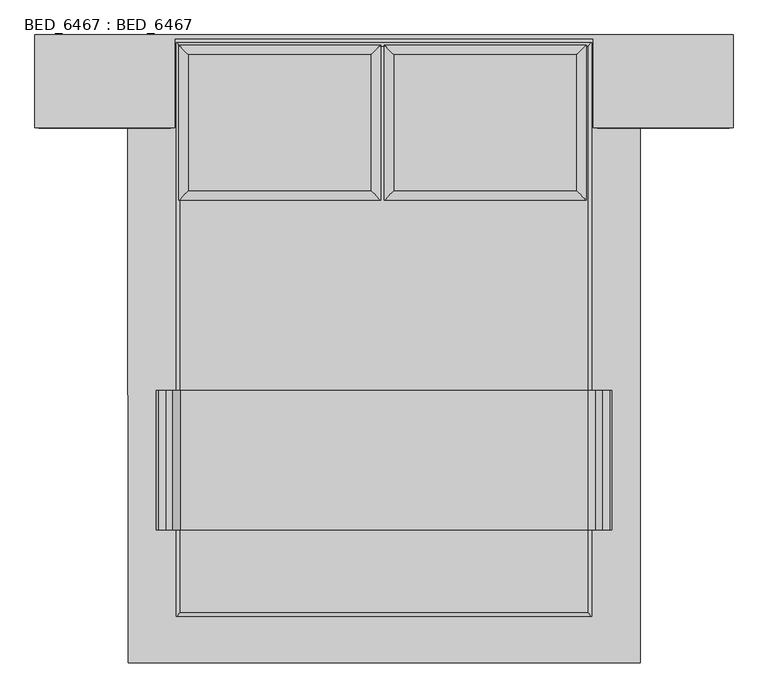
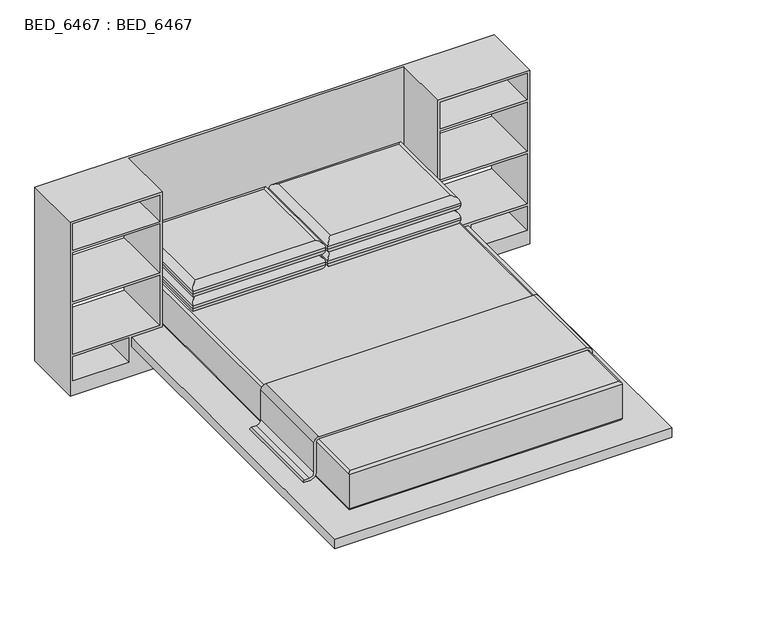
"""IFC4 building model written with IfcOpenShell, lengths in millimetres: proxy geometry, BED_6467 : BED_6467."""

from ifc_helpers import new_model, si_unit, point, frame, frame_2d, origin, place, context, project, spatial, polyline, circle_curve, ellipse_curve, trimmed, segment, composite_curve, outline, extrude, faceted_brep, source, transform, mapped, element, save
from ifc_brep_helpers import plane_surface, cylinder_surface, advanced_brep


def bed_6467_bed_6467_19fe8acc(model_context):
    return source(origin(), model_context, "Body", "SolidModel", [
        extrude(outline(composite_curve([segment(trimmed(circle_curve(frame_2d((393.7, -695.3827629)), 12.7), [point((393.7, -708.0827629))], [point((406.4, -695.3827629))], True, "CARTESIAN"), True, "CONTINUOUS"), segment(polyline([(406.4, -695.3827629), (406.4, 638.1172371)]), True, "CONTINUOUS"), segment(trimmed(circle_curve(frame_2d((393.7, 638.1172371)), 12.7), [point((406.4, 638.1172371))], [point((393.7, 650.8172371))], True, "CARTESIAN"), True, "CONTINUOUS"), segment(polyline([(393.7, 650.8172371), (238.548362, 650.8172371)]), True, "CONTINUOUS"), segment(trimmed(circle_curve(frame_2d((238.548362, 686.1655991)), 35.348362), [point((238.548362, 650.8172371))], [point((203.2, 686.1655991))], False, "CARTESIAN"), True, "CONTINUOUS"), segment(polyline([(203.2, 686.1655991), (203.2, 710.6172368)]), True, "CONTINUOUS"), segment(trimmed(circle_curve(frame_2d((209.55, 710.6172368)), 6.35), [point((203.2, 710.6172368))], [point((215.9, 710.6172368))], False, "CARTESIAN"), True, "CONTINUOUS"), segment(polyline([(215.9, 710.6172368), (215.9, 686.1655991)]), True, "CONTINUOUS"), segment(trimmed(circle_curve(frame_2d((238.548362, 686.1655991)), 22.648362), [point((215.9, 686.1655991))], [point((238.548362, 663.5172371))], True, "CARTESIAN"), True, "CONTINUOUS"), segment(polyline([(238.548362, 663.5172371), (393.7, 663.5172371)]), True, "CONTINUOUS"), segment(trimmed(circle_curve(frame_2d((393.7, 638.1172371)), 25.4), [point((393.7, 663.5172371))], [point((419.1, 638.1172371))], False, "CARTESIAN"), True, "CONTINUOUS"), segment(polyline([(419.1, 638.1172371), (419.1, -695.3827629)]), True, "CONTINUOUS"), segment(trimmed(circle_curve(frame_2d((393.7, -695.3827629)), 25.4), [point((419.1, -695.3827629))], [point((393.7, -720.7827629))], False, "CARTESIAN"), True, "CONTINUOUS"), segment(polyline([(393.7, -720.7827629), (238.548362, -720.7827629)]), True, "CONTINUOUS"), segment(trimmed(circle_curve(frame_2d((238.548362, -743.4311248)), 22.648362), [point((238.548362, -720.7827629))], [point((215.9, -743.4311248))], True, "CARTESIAN"), True, "CONTINUOUS"), segment(polyline([(215.9, -743.4311248), (215.9, -767.8827625)]), True, "CONTINUOUS"), segment(trimmed(circle_curve(frame_2d((209.55, -767.8827625)), 6.35), [point((215.9, -767.8827625))], [point((203.2, -767.8827625))], False, "CARTESIAN"), True, "CONTINUOUS"), segment(polyline([(203.2, -767.8827625), (203.2, -743.4311248)]), True, "CONTINUOUS"), segment(trimmed(circle_curve(frame_2d((238.548362, -743.4311248)), 35.348362), [point((203.2, -743.4311248))], [point((238.548362, -708.0827629))], False, "CARTESIAN"), True, "CONTINUOUS"), segment(polyline([(238.548362, -708.0827629), (393.7, -708.0827629)]), True, "CONTINUOUS")], self_intersect=False)), frame((0.0, -800.4016054, 0.0), z_axis=(0.0, 1.0, 0.0), x_axis=(0.0, 0.0, 1.0)), (0.0, 0.0, 1.0), 457.2),
        advanced_brep(
        [(4.655837, 311.8406819, 558.8), (601.555837, 311.8406819, 558.8), (601.555837, 756.3406819, 558.8), (4.655837, 756.3406819, 558.8), (601.555837, 311.8406819, 482.6), (4.655837, 311.8406819, 482.6), (4.655837, 756.3406819, 482.6), (601.555837, 756.3406819, 482.6), (633.305837, 788.0906819, 527.05), (633.305837, 788.0906819, 514.35), (-27.094163, 788.0906819, 514.35), (-27.094163, 788.0906819, 527.05), (-27.094163, 280.0906819, 514.35), (-27.094163, 280.0906819, 527.05), (633.305837, 280.0906819, 514.35), (633.305837, 280.0906819, 527.05)],
        [
            (0, 1),
            (1, 2),
            (2, 3),
            (3, 0),
            (4, 5),
            (5, 6),
            (6, 7),
            (7, 4),
            (8, 9),
            (9, 10),
            (10, 11),
            (11, 8),
            (10, 12),
            (12, 13),
            (13, 11),
            (12, 14),
            (14, 15),
            (15, 13),
            (8, 15),
            (14, 9),
            (15, 1, ellipse_curve(frame((601.555837, 311.8406819, 527.05), z_axis=(-0.7071067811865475, -0.7071067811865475, 0.0), x_axis=(0.7071067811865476, -0.7071067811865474, 0.0)), 44.9012806, 31.75)),
            (0, 13, ellipse_curve(frame((4.655837, 311.8406819, 527.05), z_axis=(0.7071067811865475, -0.7071067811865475, 0.0), x_axis=(0.7071067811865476, 0.7071067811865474, 0.0)), 44.9012806, 31.75)),
            (4, 14, ellipse_curve(frame((601.555837, 311.8406819, 514.35), z_axis=(-0.7071067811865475, -0.7071067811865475, 0.0), x_axis=(0.7071067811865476, -0.7071067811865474, 0.0)), 44.9012806, 31.75)),
            (12, 5, ellipse_curve(frame((4.655837, 311.8406819, 514.35), z_axis=(0.7071067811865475, -0.7071067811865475, 0.0), x_axis=(0.7071067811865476, 0.7071067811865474, 0.0)), 44.9012806, 31.75)),
            (8, 2, ellipse_curve(frame((601.555837, 756.3406819, 527.05), z_axis=(0.7071067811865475, -0.7071067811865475, 0.0), x_axis=(0.7071067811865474, 0.7071067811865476, 0.0)), 44.9012806, 31.75)),
            (7, 9, ellipse_curve(frame((601.555837, 756.3406819, 514.35), z_axis=(0.7071067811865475, -0.7071067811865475, 0.0), x_axis=(0.7071067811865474, 0.7071067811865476, 0.0)), 44.9012806, 31.75)),
            (11, 3, ellipse_curve(frame((4.655837, 756.3406819, 527.05), z_axis=(0.7071067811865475, 0.7071067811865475, 0.0), x_axis=(-0.7071067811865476, 0.7071067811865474, 0.0)), 44.9012806, 31.75)),
            (6, 10, ellipse_curve(frame((4.655837, 756.3406819, 514.35), z_axis=(0.7071067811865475, 0.7071067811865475, 0.0), x_axis=(-0.7071067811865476, 0.7071067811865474, 0.0)), 44.9012806, 31.75)),
        ],
        [
            plane_surface(frame((-27.094163, 788.0906819, 558.8), z_axis=(0.0, 0.0, 1.0), x_axis=(-1.0, 0.0, 0.0))),
            plane_surface(frame((-27.094163, 788.0906819, 482.6), z_axis=(0.0, 0.0, -1.0), x_axis=(1.0, 0.0, 0.0))),
            plane_surface(frame((633.305837, 788.0906819, 558.8), z_axis=(0.0, 1.0, 0.0), x_axis=(0.0, 0.0, -1.0))),
            plane_surface(frame((-27.094163, 788.0906819, 558.8), z_axis=(-1.0, 0.0, 0.0), x_axis=(0.0, 0.0, -1.0))),
            plane_surface(frame((-27.094163, 280.0906819, 558.8), z_axis=(0.0, -1.0, 0.0), x_axis=(0.0, 0.0, -1.0))),
            plane_surface(frame((633.305837, 280.0906819, 558.8), z_axis=(1.0, 0.0, 0.0), x_axis=(0.0, 0.0, -1.0))),
            cylinder_surface(frame((-27.094163, 311.8406819, 527.05), z_axis=(1.0, 0.0, 0.0), x_axis=(0.0, 1.0, 0.0)), 31.75),
            cylinder_surface(frame((-27.094163, 311.8406819, 514.35), z_axis=(1.0, 0.0, 0.0), x_axis=(0.0, 1.0, 0.0)), 31.75),
            cylinder_surface(frame((601.555837, 280.0906819, 527.05), z_axis=(0.0, 1.0, 0.0), x_axis=(-1.0, 0.0, 0.0)), 31.75),
            cylinder_surface(frame((601.555837, 280.0906819, 514.35), z_axis=(0.0, 1.0, 0.0), x_axis=(-1.0, 0.0, 0.0)), 31.75),
            cylinder_surface(frame((633.305837, 756.3406819, 527.05), z_axis=(-1.0, 0.0, 0.0), x_axis=(0.0, -1.0, 0.0)), 31.75),
            cylinder_surface(frame((633.305837, 756.3406819, 514.35), z_axis=(-1.0, 0.0, 0.0), x_axis=(0.0, -1.0, 0.0)), 31.75),
            cylinder_surface(frame((4.655837, 788.0906819, 527.05), z_axis=(0.0, -1.0, 0.0), x_axis=(1.0, 0.0, 0.0)), 31.75),
            cylinder_surface(frame((4.655837, 788.0906819, 514.35), z_axis=(0.0, -1.0, 0.0), x_axis=(1.0, 0.0, 0.0)), 31.75),
        ],
        [
            (0, [[1, 2, 3, 4]]),
            (1, [[5, 6, 7, 8]]),
            (2, [[9, 10, 11, 12]]),
            (3, [[-11, 13, 14, 15]]),
            (4, [[-14, 16, 17, 18]]),
            (5, [[-9, 19, -17, 20]]),
            (6, [[21, -1, 22, -18]]),
            (7, [[23, -16, 24, -5]]),
            (8, [[-21, -19, 25, -2]]),
            (9, [[-23, -8, 26, -20]]),
            (10, [[-25, -12, 27, -3]]),
            (11, [[-26, -7, 28, -10]]),
            (12, [[-22, -4, -27, -15]]),
            (13, [[-24, -13, -28, -6]]),
        ],
    ),
        advanced_brep(
        [(-668.444163, 311.8406819, 558.8), (-71.544163, 311.8406819, 558.8), (-71.544163, 756.3406819, 558.8), (-668.444163, 756.3406819, 558.8), (-71.544163, 311.8406819, 482.6), (-668.444163, 311.8406819, 482.6), (-668.444163, 756.3406819, 482.6), (-71.544163, 756.3406819, 482.6), (-39.794163, 788.0906819, 527.05), (-39.794163, 788.0906819, 514.35), (-700.194163, 788.0906819, 514.35), (-700.194163, 788.0906819, 527.05), (-700.194163, 280.0906819, 514.35), (-700.194163, 280.0906819, 527.05), (-39.794163, 280.0906819, 514.35), (-39.794163, 280.0906819, 527.05)],
        [
            (0, 1),
            (1, 2),
            (2, 3),
            (3, 0),
            (4, 5),
            (5, 6),
            (6, 7),
            (7, 4),
            (8, 9),
            (9, 10),
            (10, 11),
            (11, 8),
            (10, 12),
            (12, 13),
            (13, 11),
            (12, 14),
            (14, 15),
            (15, 13),
            (8, 15),
            (14, 9),
            (15, 1, ellipse_curve(frame((-71.544163, 311.8406819, 527.05), z_axis=(-0.7071067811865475, -0.7071067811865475, 0.0), x_axis=(0.7071067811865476, -0.7071067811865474, 0.0)), 44.9012806, 31.75)),
            (0, 13, ellipse_curve(frame((-668.444163, 311.8406819, 527.05), z_axis=(0.7071067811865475, -0.7071067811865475, 0.0), x_axis=(0.7071067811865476, 0.7071067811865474, 0.0)), 44.9012806, 31.75)),
            (4, 14, ellipse_curve(frame((-71.544163, 311.8406819, 514.35), z_axis=(-0.7071067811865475, -0.7071067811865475, 0.0), x_axis=(0.7071067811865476, -0.7071067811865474, 0.0)), 44.9012806, 31.75)),
            (12, 5, ellipse_curve(frame((-668.444163, 311.8406819, 514.35), z_axis=(0.7071067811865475, -0.7071067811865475, 0.0), x_axis=(0.7071067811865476, 0.7071067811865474, 0.0)), 44.9012806, 31.75)),
            (8, 2, ellipse_curve(frame((-71.544163, 756.3406819, 527.05), z_axis=(0.7071067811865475, -0.7071067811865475, 0.0), x_axis=(0.7071067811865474, 0.7071067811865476, 0.0)), 44.9012806, 31.75)),
            (7, 9, ellipse_curve(frame((-71.544163, 756.3406819, 514.35), z_axis=(0.7071067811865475, -0.7071067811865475, 0.0), x_axis=(0.7071067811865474, 0.7071067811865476, 0.0)), 44.9012806, 31.75)),
            (11, 3, ellipse_curve(frame((-668.444163, 756.3406819, 527.05), z_axis=(0.7071067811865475, 0.7071067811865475, 0.0), x_axis=(-0.7071067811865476, 0.7071067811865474, 0.0)), 44.9012806, 31.75)),
            (6, 10, ellipse_curve(frame((-668.444163, 756.3406819, 514.35), z_axis=(0.7071067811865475, 0.7071067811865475, 0.0), x_axis=(-0.7071067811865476, 0.7071067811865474, 0.0)), 44.9012806, 31.75)),
        ],
        [
            plane_surface(frame((-700.194163, 788.0906819, 558.8), z_axis=(0.0, 0.0, 1.0), x_axis=(-1.0, 0.0, 0.0))),
            plane_surface(frame((-700.194163, 788.0906819, 482.6), z_axis=(0.0, 0.0, -1.0), x_axis=(1.0, 0.0, 0.0))),
            plane_surface(frame((-39.794163, 788.0906819, 558.8), z_axis=(0.0, 1.0, 0.0), x_axis=(0.0, 0.0, -1.0))),
            plane_surface(frame((-700.194163, 788.0906819, 558.8), z_axis=(-1.0, 0.0, 0.0), x_axis=(0.0, 0.0, -1.0))),
            plane_surface(frame((-700.194163, 280.0906819, 558.8), z_axis=(0.0, -1.0, 0.0), x_axis=(0.0, 0.0, -1.0))),
            plane_surface(frame((-39.794163, 280.0906819, 558.8), z_axis=(1.0, 0.0, 0.0), x_axis=(0.0, 0.0, -1.0))),
            cylinder_surface(frame((-700.194163, 311.8406819, 527.05), z_axis=(1.0, 0.0, 0.0), x_axis=(0.0, 1.0, 0.0)), 31.75),
            cylinder_surface(frame((-700.194163, 311.8406819, 514.35), z_axis=(1.0, 0.0, 0.0), x_axis=(0.0, 1.0, 0.0)), 31.75),
            cylinder_surface(frame((-71.544163, 280.0906819, 527.05), z_axis=(0.0, 1.0, 0.0), x_axis=(-1.0, 0.0, 0.0)), 31.75),
            cylinder_surface(frame((-71.544163, 280.0906819, 514.35), z_axis=(0.0, 1.0, 0.0), x_axis=(-1.0, 0.0, 0.0)), 31.75),
            cylinder_surface(frame((-39.794163, 756.3406819, 527.05), z_axis=(-1.0, 0.0, 0.0), x_axis=(0.0, -1.0, 0.0)), 31.75),
            cylinder_surface(frame((-39.794163, 756.3406819, 514.35), z_axis=(-1.0, 0.0, 0.0), x_axis=(0.0, -1.0, 0.0)), 31.75),
            cylinder_surface(frame((-668.444163, 788.0906819, 527.05), z_axis=(0.0, -1.0, 0.0), x_axis=(1.0, 0.0, 0.0)), 31.75),
            cylinder_surface(frame((-668.444163, 788.0906819, 514.35), z_axis=(0.0, -1.0, 0.0), x_axis=(1.0, 0.0, 0.0)), 31.75),
        ],
        [
            (0, [[1, 2, 3, 4]]),
            (1, [[5, 6, 7, 8]]),
            (2, [[9, 10, 11, 12]]),
            (3, [[-11, 13, 14, 15]]),
            (4, [[-14, 16, 17, 18]]),
            (5, [[-9, 19, -17, 20]]),
            (6, [[21, -1, 22, -18]]),
            (7, [[23, -16, 24, -5]]),
            (8, [[-21, -19, 25, -2]]),
            (9, [[-23, -8, 26, -20]]),
            (10, [[-25, -12, 27, -3]]),
            (11, [[-26, -7, 28, -10]]),
            (12, [[-22, -4, -27, -15]]),
            (13, [[-24, -13, -28, -6]]),
        ],
    ),
        advanced_brep(
        [(4.655837, 311.8406819, 482.6), (601.555837, 311.8406819, 482.6), (601.555837, 756.3406819, 482.6), (4.655837, 756.3406819, 482.6), (601.555837, 311.8406819, 406.4), (4.655837, 311.8406819, 406.4), (4.655837, 756.3406819, 406.4), (601.555837, 756.3406819, 406.4), (633.305837, 788.0906819, 450.85), (633.305837, 788.0906819, 438.15), (-27.094163, 788.0906819, 438.15), (-27.094163, 788.0906819, 450.85), (-27.094163, 280.0906819, 438.15), (-27.094163, 280.0906819, 450.85), (633.305837, 280.0906819, 438.15), (633.305837, 280.0906819, 450.85)],
        [
            (0, 1),
            (1, 2),
            (2, 3),
            (3, 0),
            (4, 5),
            (5, 6),
            (6, 7),
            (7, 4),
            (8, 9),
            (9, 10),
            (10, 11),
            (11, 8),
            (10, 12),
            (12, 13),
            (13, 11),
            (12, 14),
            (14, 15),
            (15, 13),
            (8, 15),
            (14, 9),
            (15, 1, ellipse_curve(frame((601.555837, 311.8406819, 450.85), z_axis=(-0.7071067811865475, -0.7071067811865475, 0.0), x_axis=(0.7071067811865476, -0.7071067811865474, 0.0)), 44.9012806, 31.75)),
            (0, 13, ellipse_curve(frame((4.655837, 311.8406819, 450.85), z_axis=(0.7071067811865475, -0.7071067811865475, 0.0), x_axis=(0.7071067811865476, 0.7071067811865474, 0.0)), 44.9012806, 31.75)),
            (4, 14, ellipse_curve(frame((601.555837, 311.8406819, 438.15), z_axis=(-0.7071067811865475, -0.7071067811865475, 0.0), x_axis=(0.7071067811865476, -0.7071067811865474, 0.0)), 44.9012806, 31.75)),
            (12, 5, ellipse_curve(frame((4.655837, 311.8406819, 438.15), z_axis=(0.7071067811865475, -0.7071067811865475, 0.0), x_axis=(0.7071067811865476, 0.7071067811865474, 0.0)), 44.9012806, 31.75)),
            (8, 2, ellipse_curve(frame((601.555837, 756.3406819, 450.85), z_axis=(0.7071067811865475, -0.7071067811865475, 0.0), x_axis=(0.7071067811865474, 0.7071067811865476, 0.0)), 44.9012806, 31.75)),
            (7, 9, ellipse_curve(frame((601.555837, 756.3406819, 438.15), z_axis=(0.7071067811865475, -0.7071067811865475, 0.0), x_axis=(0.7071067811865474, 0.7071067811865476, 0.0)), 44.9012806, 31.75)),
            (11, 3, ellipse_curve(frame((4.655837, 756.3406819, 450.85), z_axis=(0.7071067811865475, 0.7071067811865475, 0.0), x_axis=(-0.7071067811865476, 0.7071067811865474, 0.0)), 44.9012806, 31.75)),
            (6, 10, ellipse_curve(frame((4.655837, 756.3406819, 438.15), z_axis=(0.7071067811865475, 0.7071067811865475, 0.0), x_axis=(-0.7071067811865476, 0.7071067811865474, 0.0)), 44.9012806, 31.75)),
        ],
        [
            plane_surface(frame((-27.094163, 788.0906819, 482.6), z_axis=(0.0, 0.0, 1.0), x_axis=(-1.0, 0.0, 0.0))),
            plane_surface(frame((-27.094163, 788.0906819, 406.4), z_axis=(0.0, 0.0, -1.0), x_axis=(1.0, 0.0, 0.0))),
            plane_surface(frame((633.305837, 788.0906819, 482.6), z_axis=(0.0, 1.0, 0.0), x_axis=(0.0, 0.0, -1.0))),
            plane_surface(frame((-27.094163, 788.0906819, 482.6), z_axis=(-1.0, 0.0, 0.0), x_axis=(0.0, 0.0, -1.0))),
            plane_surface(frame((-27.094163, 280.0906819, 482.6), z_axis=(0.0, -1.0, 0.0), x_axis=(0.0, 0.0, -1.0))),
            plane_surface(frame((633.305837, 280.0906819, 482.6), z_axis=(1.0, 0.0, 0.0), x_axis=(0.0, 0.0, -1.0))),
            cylinder_surface(frame((-27.094163, 311.8406819, 450.85), z_axis=(1.0, 0.0, 0.0), x_axis=(0.0, 1.0, 0.0)), 31.75),
            cylinder_surface(frame((-27.094163, 311.8406819, 438.15), z_axis=(1.0, 0.0, 0.0), x_axis=(0.0, 1.0, 0.0)), 31.75),
            cylinder_surface(frame((601.555837, 280.0906819, 450.85), z_axis=(0.0, 1.0, 0.0), x_axis=(-1.0, 0.0, 0.0)), 31.75),
            cylinder_surface(frame((601.555837, 280.0906819, 438.15), z_axis=(0.0, 1.0, 0.0), x_axis=(-1.0, 0.0, 0.0)), 31.75),
            cylinder_surface(frame((633.305837, 756.3406819, 450.85), z_axis=(-1.0, 0.0, 0.0), x_axis=(0.0, -1.0, 0.0)), 31.75),
            cylinder_surface(frame((633.305837, 756.3406819, 438.15), z_axis=(-1.0, 0.0, 0.0), x_axis=(0.0, -1.0, 0.0)), 31.75),
            cylinder_surface(frame((4.655837, 788.0906819, 450.85), z_axis=(0.0, -1.0, 0.0), x_axis=(1.0, 0.0, 0.0)), 31.75),
            cylinder_surface(frame((4.655837, 788.0906819, 438.15), z_axis=(0.0, -1.0, 0.0), x_axis=(1.0, 0.0, 0.0)), 31.75),
        ],
        [
            (0, [[1, 2, 3, 4]]),
            (1, [[5, 6, 7, 8]]),
            (2, [[9, 10, 11, 12]]),
            (3, [[-11, 13, 14, 15]]),
            (4, [[-14, 16, 17, 18]]),
            (5, [[-9, 19, -17, 20]]),
            (6, [[21, -1, 22, -18]]),
            (7, [[23, -16, 24, -5]]),
            (8, [[-21, -19, 25, -2]]),
            (9, [[-23, -8, 26, -20]]),
            (10, [[-25, -12, 27, -3]]),
            (11, [[-26, -7, 28, -10]]),
            (12, [[-22, -4, -27, -15]]),
            (13, [[-24, -13, -28, -6]]),
        ],
    ),
        advanced_brep(
        [(-668.444163, 311.8406819, 482.6), (-71.544163, 311.8406819, 482.6), (-71.544163, 756.3406819, 482.6), (-668.444163, 756.3406819, 482.6), (-71.544163, 311.8406819, 406.4), (-668.444163, 311.8406819, 406.4), (-668.444163, 756.3406819, 406.4), (-71.544163, 756.3406819, 406.4), (-39.794163, 788.0906819, 450.85), (-39.794163, 788.0906819, 438.15), (-700.194163, 788.0906819, 438.15), (-700.194163, 788.0906819, 450.85), (-700.194163, 280.0906819, 438.15), (-700.194163, 280.0906819, 450.85), (-39.794163, 280.0906819, 438.15), (-39.794163, 280.0906819, 450.85)],
        [
            (0, 1),
            (1, 2),
            (2, 3),
            (3, 0),
            (4, 5),
            (5, 6),
            (6, 7),
            (7, 4),
            (8, 9),
            (9, 10),
            (10, 11),
            (11, 8),
            (10, 12),
            (12, 13),
            (13, 11),
            (12, 14),
            (14, 15),
            (15, 13),
            (8, 15),
            (14, 9),
            (15, 1, ellipse_curve(frame((-71.544163, 311.8406819, 450.85), z_axis=(-0.7071067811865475, -0.7071067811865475, 0.0), x_axis=(0.7071067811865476, -0.7071067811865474, 0.0)), 44.9012806, 31.75)),
            (0, 13, ellipse_curve(frame((-668.444163, 311.8406819, 450.85), z_axis=(0.7071067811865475, -0.7071067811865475, 0.0), x_axis=(0.7071067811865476, 0.7071067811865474, 0.0)), 44.9012806, 31.75)),
            (4, 14, ellipse_curve(frame((-71.544163, 311.8406819, 438.15), z_axis=(-0.7071067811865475, -0.7071067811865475, 0.0), x_axis=(0.7071067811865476, -0.7071067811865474, 0.0)), 44.9012806, 31.75)),
            (12, 5, ellipse_curve(frame((-668.444163, 311.8406819, 438.15), z_axis=(0.7071067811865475, -0.7071067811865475, 0.0), x_axis=(0.7071067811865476, 0.7071067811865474, 0.0)), 44.9012806, 31.75)),
            (8, 2, ellipse_curve(frame((-71.544163, 756.3406819, 450.85), z_axis=(0.7071067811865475, -0.7071067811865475, 0.0), x_axis=(0.7071067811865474, 0.7071067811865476, 0.0)), 44.9012806, 31.75)),
            (7, 9, ellipse_curve(frame((-71.544163, 756.3406819, 438.15), z_axis=(0.7071067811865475, -0.7071067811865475, 0.0), x_axis=(0.7071067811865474, 0.7071067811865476, 0.0)), 44.9012806, 31.75)),
            (11, 3, ellipse_curve(frame((-668.444163, 756.3406819, 450.85), z_axis=(0.7071067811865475, 0.7071067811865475, 0.0), x_axis=(-0.7071067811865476, 0.7071067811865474, 0.0)), 44.9012806, 31.75)),
            (6, 10, ellipse_curve(frame((-668.444163, 756.3406819, 438.15), z_axis=(0.7071067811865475, 0.7071067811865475, 0.0), x_axis=(-0.7071067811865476, 0.7071067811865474, 0.0)), 44.9012806, 31.75)),
        ],
        [
            plane_surface(frame((-700.194163, 788.0906819, 482.6), z_axis=(0.0, 0.0, 1.0), x_axis=(-1.0, 0.0, 0.0))),
            plane_surface(frame((-700.194163, 788.0906819, 406.4), z_axis=(0.0, 0.0, -1.0), x_axis=(1.0, 0.0, 0.0))),
            plane_surface(frame((-39.794163, 788.0906819, 482.6), z_axis=(0.0, 1.0, 0.0), x_axis=(0.0, 0.0, -1.0))),
            plane_surface(frame((-700.194163, 788.0906819, 482.6), z_axis=(-1.0, 0.0, 0.0), x_axis=(0.0, 0.0, -1.0))),
            plane_surface(frame((-700.194163, 280.0906819, 482.6), z_axis=(0.0, -1.0, 0.0), x_axis=(0.0, 0.0, -1.0))),
            plane_surface(frame((-39.794163, 280.0906819, 482.6), z_axis=(1.0, 0.0, 0.0), x_axis=(0.0, 0.0, -1.0))),
            cylinder_surface(frame((-700.194163, 311.8406819, 450.85), z_axis=(1.0, 0.0, 0.0), x_axis=(0.0, 1.0, 0.0)), 31.75),
            cylinder_surface(frame((-700.194163, 311.8406819, 438.15), z_axis=(1.0, 0.0, 0.0), x_axis=(0.0, 1.0, 0.0)), 31.75),
            cylinder_surface(frame((-71.544163, 280.0906819, 450.85), z_axis=(0.0, 1.0, 0.0), x_axis=(-1.0, 0.0, 0.0)), 31.75),
            cylinder_surface(frame((-71.544163, 280.0906819, 438.15), z_axis=(0.0, 1.0, 0.0), x_axis=(-1.0, 0.0, 0.0)), 31.75),
            cylinder_surface(frame((-39.794163, 756.3406819, 450.85), z_axis=(-1.0, 0.0, 0.0), x_axis=(0.0, -1.0, 0.0)), 31.75),
            cylinder_surface(frame((-39.794163, 756.3406819, 438.15), z_axis=(-1.0, 0.0, 0.0), x_axis=(0.0, -1.0, 0.0)), 31.75),
            cylinder_surface(frame((-668.444163, 788.0906819, 450.85), z_axis=(0.0, -1.0, 0.0), x_axis=(1.0, 0.0, 0.0)), 31.75),
            cylinder_surface(frame((-668.444163, 788.0906819, 438.15), z_axis=(0.0, -1.0, 0.0), x_axis=(1.0, 0.0, 0.0)), 31.75),
        ],
        [
            (0, [[1, 2, 3, 4]]),
            (1, [[5, 6, 7, 8]]),
            (2, [[9, 10, 11, 12]]),
            (3, [[-11, 13, 14, 15]]),
            (4, [[-14, 16, 17, 18]]),
            (5, [[-9, 19, -17, 20]]),
            (6, [[21, -1, 22, -18]]),
            (7, [[23, -16, 24, -5]]),
            (8, [[-21, -19, 25, -2]]),
            (9, [[-23, -8, 26, -20]]),
            (10, [[-25, -12, 27, -3]]),
            (11, [[-26, -7, 28, -10]]),
            (12, [[-22, -4, -27, -15]]),
            (13, [[-24, -13, -28, -6]]),
        ],
    ),
        faceted_brep([(-714.4327629, 517.2233946, 914.4), (-714.4327629, 809.3233946, 914.4), (657.1672371, 809.3233946, 914.4), (657.1672371, 517.2233946, 914.4), (1114.3672371, 517.2233946, 914.4), (1114.3672371, 822.0233946, 914.4), (-1171.6327629, 822.0233946, 914.4), (-1171.6327629, 517.2233946, 914.4), (-714.4327629, 517.2233946, 0.0), (-1171.6327629, 517.2233946, 0.0), (-1171.6327629, 822.0233946, 0.0), (1114.3672371, 822.0233946, 0.0), (1114.3672371, 517.2233946, 0.0), (657.1672371, 517.2233946, 0.0), (657.1672371, 809.3233946, 0.0), (-714.4327629, 809.3233946, 0.0), (-714.4327629, 517.2233946, 203.2), (-714.4327629, 809.3233946, 203.2), (-714.4327629, 809.3233946, 152.4), (-714.4327629, 517.2233946, 152.4), (657.1672371, 809.3233946, 203.2), (657.1672371, 809.3233946, 152.4), (657.1672371, 517.2233946, 203.2), (657.1672371, 517.2233946, 152.4), (809.5672371, 517.2233946, 203.2), (809.5672371, 517.2233946, 152.4), (822.2672371, 517.2233946, 203.2), (1101.6672371, 517.2233946, 203.2), (1101.6672371, 517.2233946, 76.2), (822.2672371, 517.2233946, 76.2), (669.8672371, 517.2233946, 762.0), (669.8672371, 517.2233946, 901.7), (1101.6672371, 517.2233946, 901.7), (1101.6672371, 517.2233946, 762.0), (1101.6672371, 517.2233946, 479.0089549), (1101.6672371, 517.2233946, 215.9), (669.8672371, 517.2233946, 215.9), (669.8672371, 517.2233946, 479.0089549), (1101.6672371, 517.2233946, 749.3), (1101.6672371, 517.2233946, 491.7089549), (669.8672371, 517.2233946, 491.7089549), (669.8672371, 517.2233946, 749.3), (-1158.9327629, 822.0233946, 203.2), (-1158.9327629, 822.0233946, 76.2), (-879.5327629, 822.0233946, 76.2), (-879.5327629, 822.0233946, 203.2), (-1158.9327629, 822.0233946, 215.9), (-727.1327629, 822.0233946, 215.9), (-727.1327629, 822.0233946, 479.0089549), (-1158.9327629, 822.0233946, 479.0089549), (-727.1327629, 822.0233946, 901.7), (-1158.9327629, 822.0233946, 901.7), (-1158.9327629, 822.0233946, 762.0), (-727.1327629, 822.0233946, 762.0), (-1158.9327629, 822.0233946, 491.7089549), (-727.1327629, 822.0233946, 491.7089549), (-727.1327629, 822.0233946, 749.3), (-1158.9327629, 822.0233946, 749.3), (1101.6672371, 822.0233946, 203.2), (822.2672371, 822.0233946, 203.2), (822.2672371, 822.0233946, 76.2), (1101.6672371, 822.0233946, 76.2), (669.8672371, 822.0233946, 901.7), (669.8672371, 822.0233946, 762.0), (1101.6672371, 822.0233946, 762.0), (1101.6672371, 822.0233946, 901.7), (1101.6672371, 822.0233946, 215.9), (1101.6672371, 822.0233946, 479.0089549), (669.8672371, 822.0233946, 479.0089549), (669.8672371, 822.0233946, 215.9), (1101.6672371, 822.0233946, 491.7089549), (1101.6672371, 822.0233946, 749.3), (669.8672371, 822.0233946, 749.3), (669.8672371, 822.0233946, 491.7089549), (-866.8327629, 517.2233946, 152.4), (-866.8327629, 517.2233946, 203.2), (-1158.9327629, 517.2233946, 76.2), (-1158.9327629, 517.2233946, 203.2), (-879.5327629, 517.2233946, 203.2), (-879.5327629, 517.2233946, 76.2), (-727.1327629, 517.2233946, 215.9), (-1158.9327629, 517.2233946, 215.9), (-1158.9327629, 517.2233946, 479.0089549), (-727.1327629, 517.2233946, 479.0089549), (-1158.9327629, 517.2233946, 901.7), (-727.1327629, 517.2233946, 901.7), (-727.1327629, 517.2233946, 762.0), (-1158.9327629, 517.2233946, 762.0), (-727.1327629, 517.2233946, 491.7089549), (-1158.9327629, 517.2233946, 491.7089549), (-1158.9327629, 517.2233946, 749.3), (-727.1327629, 517.2233946, 749.3), (-866.8327629, -1235.3766054, 203.2), (809.5672371, -1235.3766054, 203.2), (809.5672371, -1235.3766054, 152.4), (-866.8327629, -1235.3766054, 152.4), (-562.0327629, 796.6233946, 152.4), (-562.0327629, -1006.7766054, 152.4), (504.7672371, -1006.7766054, 152.4), (504.7672371, 796.6233946, 152.4), (-562.0327629, 796.6233946, 0.0), (504.7672371, 796.6233946, 0.0), (504.7672371, -1006.7766054, 0.0), (-562.0327629, -1006.7766054, 0.0)], [[[0, 1, 2, 3, 4, 5, 6, 7]], [[8, 9, 10, 11, 12, 13, 14, 15]], [[1, 0, 16, 17]], [[8, 15, 18, 19]], [[2, 1, 17, 20]], [[15, 14, 21, 18]], [[3, 2, 20, 22]], [[14, 13, 23, 21]], [[4, 3, 22, 24, 25, 23, 13, 12], [26, 27, 28, 29], [30, 31, 32, 33], [34, 35, 36, 37], [38, 39, 40, 41]], [[5, 4, 12, 11]], [[6, 5, 11, 10], [42, 43, 44, 45], [46, 47, 48, 49], [50, 51, 52, 53], [54, 55, 56, 57], [58, 59, 60, 61], [62, 63, 64, 65], [66, 67, 68, 69], [70, 71, 72, 73]], [[7, 6, 10, 9]], [[0, 7, 9, 8, 19, 74, 75, 16], [76, 77, 78, 79], [80, 81, 82, 83], [84, 85, 86, 87], [88, 89, 90, 91]], [[75, 92, 93, 24, 22, 20, 17, 16]], [[25, 94, 95, 74, 19, 18, 21, 23], [96, 97, 98, 99]], [[92, 75, 74, 95]], [[93, 92, 95, 94]], [[24, 93, 94, 25]], [[100, 101, 102, 103]], [[100, 103, 97, 96]], [[103, 102, 98, 97]], [[102, 101, 99, 98]], [[101, 100, 96, 99]], [[76, 43, 42, 77]], [[43, 76, 79, 44]], [[44, 79, 78, 45]], [[77, 42, 45, 78]], [[84, 51, 50, 85]], [[51, 84, 87, 52]], [[52, 87, 86, 53]], [[85, 50, 53, 86]], [[80, 47, 46, 81]], [[47, 80, 83, 48]], [[48, 83, 82, 49]], [[81, 46, 49, 82]], [[88, 55, 54, 89]], [[55, 88, 91, 56]], [[56, 91, 90, 57]], [[89, 54, 57, 90]], [[26, 59, 58, 27]], [[59, 26, 29, 60]], [[60, 29, 28, 61]], [[27, 58, 61, 28]], [[30, 63, 62, 31]], [[63, 30, 33, 64]], [[64, 33, 32, 65]], [[31, 62, 65, 32]], [[34, 67, 66, 35]], [[67, 34, 37, 68]], [[68, 37, 36, 69]], [[35, 66, 69, 36]], [[38, 71, 70, 39]], [[71, 38, 41, 72]], [[72, 41, 40, 73]], [[39, 70, 73, 40]]]),
        advanced_brep(
        [(-695.3827629, -1070.2766054, 406.4), (638.1172371, -1070.2766054, 406.4), (638.1172371, 783.9233946, 406.4), (-695.3827629, 783.9233946, 406.4), (638.1172371, -1070.2766054, 203.2), (-695.3827629, -1070.2766054, 203.2), (-695.3827629, 783.9233946, 203.2), (638.1172371, 783.9233946, 203.2), (-708.0827629, -1082.9766054, 393.7), (-708.0827629, -1082.9766054, 215.9), (650.8172371, -1082.9766054, 215.9), (650.8172371, -1082.9766054, 393.7), (650.8172371, 796.6233946, 215.9), (650.8172371, 796.6233946, 393.7), (-708.0827629, 796.6233946, 215.9), (-708.0827629, 796.6233946, 393.7)],
        [
            (0, 1),
            (1, 2),
            (2, 3),
            (3, 0),
            (4, 5),
            (5, 6),
            (6, 7),
            (7, 4),
            (8, 9),
            (9, 10),
            (10, 11),
            (11, 8),
            (10, 12),
            (12, 13),
            (13, 11),
            (12, 14),
            (14, 15),
            (15, 13),
            (8, 15),
            (14, 9),
            (11, 1, ellipse_curve(frame((638.1172371, -1070.2766054, 393.7), z_axis=(-0.7071067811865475, -0.7071067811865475, 0.0), x_axis=(0.7071067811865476, -0.7071067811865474, 0.0)), 17.9605122, 12.7)),
            (0, 8, ellipse_curve(frame((-695.3827629, -1070.2766054, 393.7), z_axis=(0.7071067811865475, -0.7071067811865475, 0.0), x_axis=(0.7071067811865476, 0.7071067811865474, 0.0)), 17.9605122, 12.7)),
            (4, 10, ellipse_curve(frame((638.1172371, -1070.2766054, 215.9), z_axis=(-0.7071067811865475, -0.7071067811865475, 0.0), x_axis=(0.7071067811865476, -0.7071067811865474, 0.0)), 17.9605122, 12.7)),
            (9, 5, ellipse_curve(frame((-695.3827629, -1070.2766054, 215.9), z_axis=(0.7071067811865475, -0.7071067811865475, 0.0), x_axis=(0.7071067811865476, 0.7071067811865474, 0.0)), 17.9605122, 12.7)),
            (13, 2, ellipse_curve(frame((638.1172371, 783.9233946, 393.7), z_axis=(0.7071067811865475, -0.7071067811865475, 0.0), x_axis=(0.7071067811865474, 0.7071067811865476, 0.0)), 17.9605122, 12.7)),
            (7, 12, ellipse_curve(frame((638.1172371, 783.9233946, 215.9), z_axis=(0.7071067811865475, -0.7071067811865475, 0.0), x_axis=(0.7071067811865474, 0.7071067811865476, 0.0)), 17.9605122, 12.7)),
            (15, 3, ellipse_curve(frame((-695.3827629, 783.9233946, 393.7), z_axis=(0.7071067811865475, 0.7071067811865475, 0.0), x_axis=(-0.7071067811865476, 0.7071067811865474, 0.0)), 17.9605122, 12.7)),
            (6, 14, ellipse_curve(frame((-695.3827629, 783.9233946, 215.9), z_axis=(0.7071067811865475, 0.7071067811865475, 0.0), x_axis=(-0.7071067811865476, 0.7071067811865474, 0.0)), 17.9605122, 12.7)),
        ],
        [
            plane_surface(frame((-866.8327629, -1082.9766054, 406.4), z_axis=(0.0, 0.0, 1.0), x_axis=(1.0, 0.0, 0.0))),
            plane_surface(frame((-866.8327629, -1082.9766054, 203.2), z_axis=(0.0, 0.0, -1.0), x_axis=(-1.0, 0.0, 0.0))),
            plane_surface(frame((-708.0827629, -1082.9766054, 406.4), z_axis=(0.0, -1.0, 0.0), x_axis=(0.0, 0.0, -1.0))),
            plane_surface(frame((650.8172371, -1082.9766054, 406.4), z_axis=(1.0, 0.0, 0.0), x_axis=(0.0, 0.0, -1.0))),
            plane_surface(frame((650.8172371, 796.6233946, 406.4), z_axis=(0.0, 1.0, 0.0), x_axis=(0.0, 0.0, -1.0))),
            plane_surface(frame((-708.0827629, 796.6233946, 406.4), z_axis=(-1.0, 0.0, 0.0), x_axis=(0.0, 0.0, -1.0))),
            cylinder_surface(frame((-708.0827629, -1070.2766054, 393.7), z_axis=(1.0, 0.0, 0.0), x_axis=(0.0, 1.0, 0.0)), 12.7),
            cylinder_surface(frame((-708.0827629, -1070.2766054, 215.9), z_axis=(1.0, 0.0, 0.0), x_axis=(0.0, 1.0, 0.0)), 12.7),
            cylinder_surface(frame((638.1172371, -1082.9766054, 393.7), z_axis=(0.0, 1.0, 0.0), x_axis=(-1.0, 0.0, 0.0)), 12.7),
            cylinder_surface(frame((638.1172371, -1082.9766054, 215.9), z_axis=(0.0, 1.0, 0.0), x_axis=(-1.0, 0.0, 0.0)), 12.7),
            cylinder_surface(frame((650.8172371, 783.9233946, 393.7), z_axis=(-1.0, 0.0, 0.0), x_axis=(0.0, -1.0, 0.0)), 12.7),
            cylinder_surface(frame((650.8172371, 783.9233946, 215.9), z_axis=(-1.0, 0.0, 0.0), x_axis=(0.0, -1.0, 0.0)), 12.7),
            cylinder_surface(frame((-695.3827629, 796.6233946, 393.7), z_axis=(0.0, -1.0, 0.0), x_axis=(1.0, 0.0, 0.0)), 12.7),
            cylinder_surface(frame((-695.3827629, 796.6233946, 215.9), z_axis=(0.0, -1.0, 0.0), x_axis=(1.0, 0.0, 0.0)), 12.7),
        ],
        [
            (0, [[1, 2, 3, 4]]),
            (1, [[5, 6, 7, 8]]),
            (2, [[9, 10, 11, 12]]),
            (3, [[-11, 13, 14, 15]]),
            (4, [[-14, 16, 17, 18]]),
            (5, [[-9, 19, -17, 20]]),
            (6, [[21, -1, 22, -12]]),
            (7, [[23, -10, 24, -5]]),
            (8, [[-21, -15, 25, -2]]),
            (9, [[-23, -8, 26, -13]]),
            (10, [[-25, -18, 27, -3]]),
            (11, [[-26, -7, 28, -16]]),
            (12, [[-22, -4, -27, -19]]),
            (13, [[-24, -20, -28, -6]]),
        ],
    ),
    ])


if __name__ == "__main__":
    model = new_model("IFC4")
    model_context = context("Model", 3, world=origin())
    ifc_project = project(units=[si_unit("LENGTHUNIT", "METRE", prefix="MILLI")], contexts=[model_context])
    site = spatial("IfcSite", under=ifc_project)
    building = spatial("IfcBuilding", under=site)
    placement = place(None, origin())
    bed_6467_bed_6467_shape = bed_6467_bed_6467_19fe8acc(model_context)
    element("IfcBuildingElementProxy", 1, Name="BED_6467 : BED_6467", ObjectType="BED_6467 : BED_6467", at=placement, inside=building, context=model_context, shape_type="MappedRepresentation", body=[
        mapped(bed_6467_bed_6467_shape, transform((0.0, 0.0, 0.0), x_axis=(1.0, 0.0, 0.0), y_axis=(0.0, 1.0, 0.0), z_axis=(0.0, 0.0, 1.0))),
    ])
    save(model, "model.ifc")
